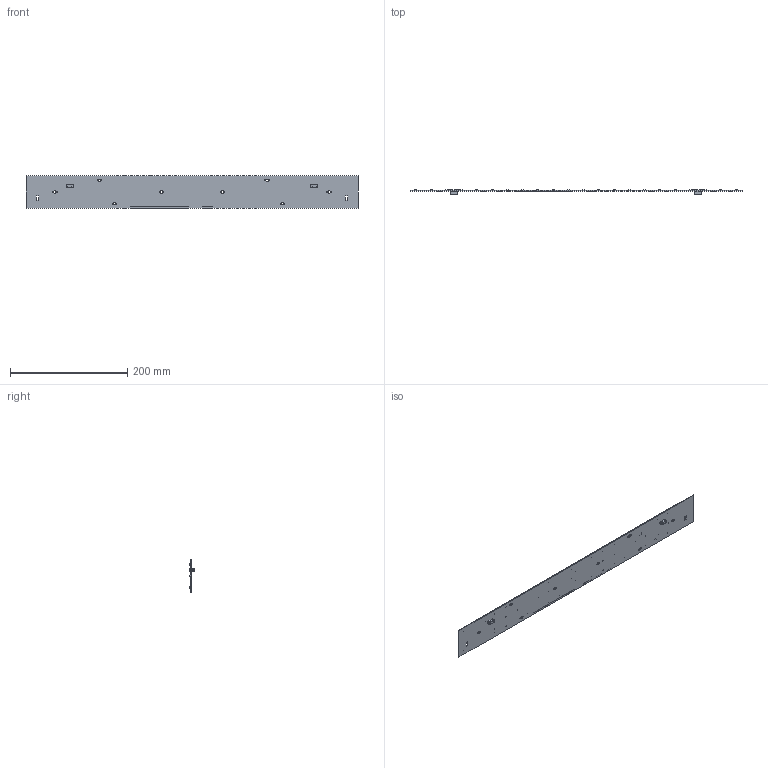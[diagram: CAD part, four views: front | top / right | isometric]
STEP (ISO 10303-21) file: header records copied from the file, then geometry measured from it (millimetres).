
FILE_DESCRIPTION((''),'2;1');
FILE_NAME('ASM0001_ASM','2021-10-14T15:31:10',('msavic'),(''),'CREO PARAMETRIC BY PTC INC, 2016510','CREO PARAMETRIC BY PTC INC, 2016510','');
FILE_SCHEMA(('AUTOMOTIVE_DESIGN { 1 0 10303 214 1 1 1 1 }'));
Products named in the file (21): BAZA_WU-M-536-SH_TC_8; STW8A12D127_2; BUILT-IN_LED_MODULE-5MM004_2_5; BUILT-IN_LED_MODULE-5MM003_2_4; BUILT-IN_LED_MODULE-5MM002_2_3; BUILT-IN_LED_MODULE-5MM001_2_4; VSO-LOGO-5MM_3_5; VSO-LOGO-5MM001_2_1_7; CE-ZEICHEN-6MM_2_6; CE-ZEICHEN-6MM001_2_9; UKCA_3_1; UKCA_3_2; UKCA_3_3; UKCA_3_4; UKCA_3_ASM; 2070-461_998-406_2; ASM_DIODE_LOGO_KONEKTORI____ASM_ASM; NEW-TXT_VOOSLOH1; NEW_TXT_REV; GERMANY__TXT0; ASM0001_ASM
Assembly tree (87 placements, depth 4):
  ASM0001_ASM
    ASM_DIODE_LOGO_KONEKTORI____ASM_ASM
      BAZA_WU-M-536-SH_TC_8
      STW8A12D127_2  x66
      BUILT-IN_LED_MODULE-5MM004_2_5
      BUILT-IN_LED_MODULE-5MM003_2_4
      BUILT-IN_LED_MODULE-5MM002_2_3
      BUILT-IN_LED_MODULE-5MM001_2_4  x2
      VSO-LOGO-5MM_3_5
      VSO-LOGO-5MM001_2_1_7
      CE-ZEICHEN-6MM_2_6
      CE-ZEICHEN-6MM001_2_9
      UKCA_3_ASM
        UKCA_3_1
        UKCA_3_2
        UKCA_3_3
        UKCA_3_4
      2070-461_998-406_2  x2
    NEW-TXT_VOOSLOH1
    NEW_TXT_REV
    GERMANY__TXT0
Bounding box: 566 x 7.45 x 55 mm (x, y, z)
Volume: 50759.9 mm3; surface area: 68843.3 mm2
Topology: 85 solids, 85 shells, 7156 faces, 23516 edges, 16955 vertices
Faces by surface type: plane 6546, cylinder 588, cone 12, extrusion 10
Entity records: 232109 total; most frequent: CARTESIAN_POINT 27493, ORIENTED_EDGE 26368, DIRECTION 22151, PRESENTATION_STYLE_ASSIGNMENT 16945, STYLED_ITEM 13202, CURVE_STYLE 13184, EDGE_CURVE 13184, VECTOR 12554
